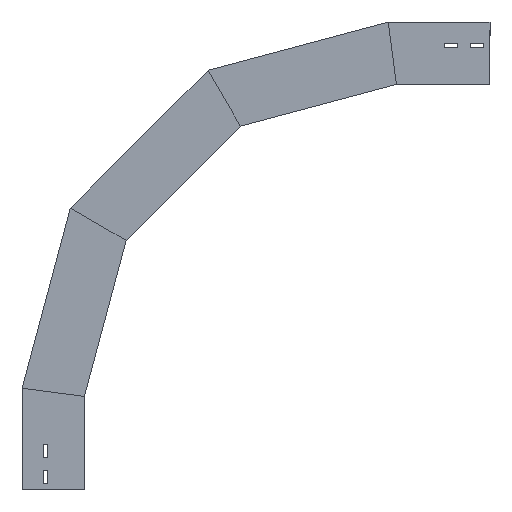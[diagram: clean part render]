
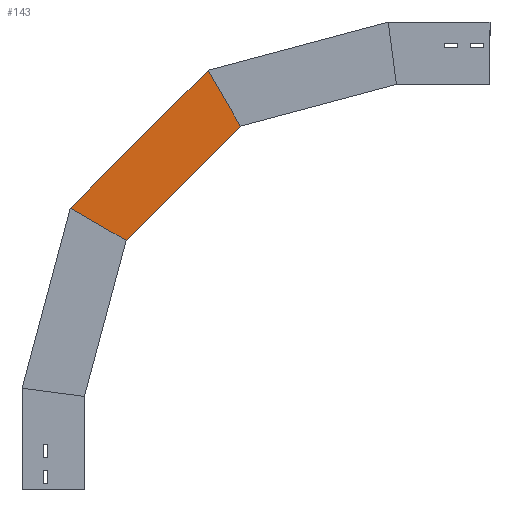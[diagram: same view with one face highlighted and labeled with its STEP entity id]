
A CAD part, left-side view. The second image highlights one B-rep face of the part: STEP entity #143.
In plain terms, the highlighted planar face has unit normal (-1, 0, 0) as drawn and (1, 0, 0) by its records, which use the part's own axes.
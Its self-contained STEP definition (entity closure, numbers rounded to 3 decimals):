
#51 = VERTEX_POINT ( 'NONE', #853 ) ;
#69 = CARTESIAN_POINT ( 'NONE',  ( 0., -250.175, 583.315 ) ) ;
#143 = ADVANCED_FACE ( 'NONE', ( #1290 ), #301, .T. ) ;
#164 = DIRECTION ( 'NONE',  ( 0., -0.5, -0.866 ) ) ;
#301 = PLANE ( 'NONE',  #1152 ) ;
#318 = VERTEX_POINT ( 'NONE', #1711 ) ;
#328 = CARTESIAN_POINT ( 'NONE',  ( 0., -67.034, 400.175 ) ) ;
#364 = CARTESIAN_POINT ( 'NONE',  ( 0., -287.519, 518.633 ) ) ;
#513 = DIRECTION ( 'NONE',  ( 0., -0.707, 0.707 ) ) ;
#524 = VERTEX_POINT ( 'NONE', #328 ) ;
#672 = DIRECTION ( 'NONE',  ( 0., -0.707, 0.707 ) ) ;
#758 = LINE ( 'NONE', #364, #1418 ) ;
#824 = EDGE_CURVE ( 'NONE', #51, #318, #1417, .T. ) ;
#833 = VECTOR ( 'NONE', #1889, 1000. ) ;
#853 = CARTESIAN_POINT ( 'NONE',  ( 0., 22.623, 451.939 ) ) ;
#863 = DIRECTION ( 'NONE',  ( 0., 0., -1. ) ) ;
#953 = CARTESIAN_POINT ( 'NONE',  ( 0., 24.589, 449.973 ) ) ;
#1044 = ORIENTED_EDGE ( 'NONE', *, *, #1739, .F. ) ;
#1048 = VECTOR ( 'NONE', #513, 1000. ) ;
#1075 = VERTEX_POINT ( 'NONE', #69 ) ;
#1104 = EDGE_LOOP ( 'NONE', ( #1504, #1770, #1749, #1044 ) ) ;
#1134 = CARTESIAN_POINT ( 'NONE',  ( 0., -46.122, 379.263 ) ) ;
#1152 = AXIS2_PLACEMENT_3D ( 'NONE', #1596, #1317, #863 ) ;
#1290 = FACE_OUTER_BOUND ( 'NONE', #1104, .T. ) ;
#1317 = DIRECTION ( 'NONE',  ( 1., 0., 0. ) ) ;
#1417 = LINE ( 'NONE', #953, #1432 ) ;
#1418 = VECTOR ( 'NONE', #164, 1000. ) ;
#1432 = VECTOR ( 'NONE', #672, 1000. ) ;
#1504 = ORIENTED_EDGE ( 'NONE', *, *, #824, .T. ) ;
#1510 = EDGE_CURVE ( 'NONE', #318, #1075, #758, .T. ) ;
#1583 = CARTESIAN_POINT ( 'NONE',  ( 0., -128.356, 364.771 ) ) ;
#1596 = CARTESIAN_POINT ( 'NONE',  ( 0., -46.122, 379.263 ) ) ;
#1631 = EDGE_CURVE ( 'NONE', #524, #1075, #1713, .T. ) ;
#1711 = CARTESIAN_POINT ( 'NONE',  ( 0., -198.411, 672.973 ) ) ;
#1713 = LINE ( 'NONE', #1134, #1048 ) ;
#1727 = LINE ( 'NONE', #1583, #833 ) ;
#1739 = EDGE_CURVE ( 'NONE', #51, #524, #1727, .T. ) ;
#1749 = ORIENTED_EDGE ( 'NONE', *, *, #1631, .F. ) ;
#1770 = ORIENTED_EDGE ( 'NONE', *, *, #1510, .T. ) ;
#1889 = DIRECTION ( 'NONE',  ( 0., -0.866, -0.5 ) ) ;
